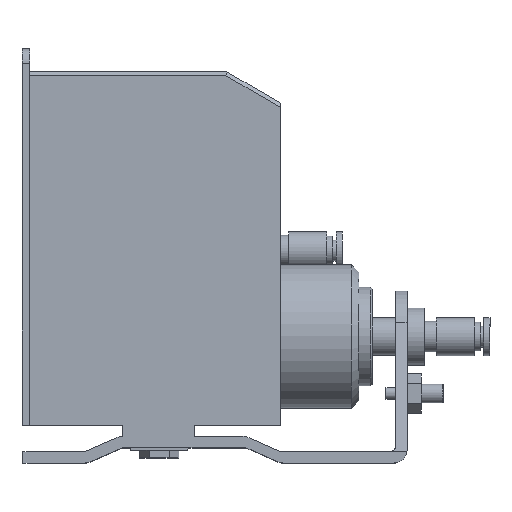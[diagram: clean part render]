
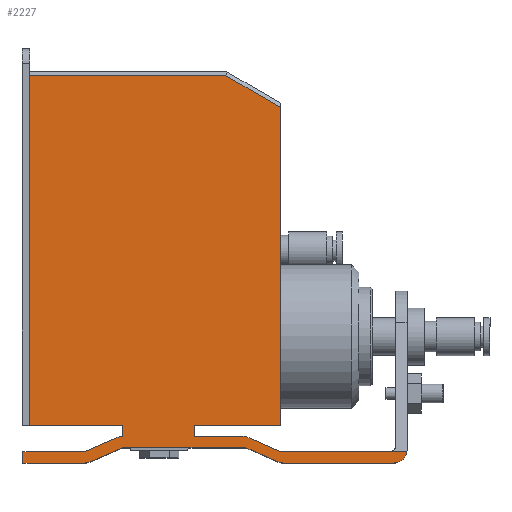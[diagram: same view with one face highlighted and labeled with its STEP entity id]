
A CAD part, top view. The second image highlights one B-rep face of the part: STEP entity #2227.
In plain terms, the highlighted planar face has unit normal (0, 0, 1).
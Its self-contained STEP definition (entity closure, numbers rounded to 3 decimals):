
#25=LINE('',#3153,#234);
#123=LINE('',#3464,#332);
#126=LINE('',#3471,#335);
#139=LINE('',#3519,#348);
#142=LINE('',#3524,#351);
#145=LINE('',#3532,#354);
#148=LINE('',#3540,#357);
#151=LINE('',#3548,#360);
#154=LINE('',#3556,#363);
#158=LINE('',#3568,#367);
#161=LINE('',#3576,#370);
#165=LINE('',#3586,#374);
#170=LINE('',#3598,#379);
#173=LINE('',#3605,#382);
#174=LINE('',#3608,#383);
#177=LINE('',#3614,#386);
#198=LINE('',#3656,#407);
#200=LINE('',#3659,#409);
#201=LINE('',#3661,#410);
#202=LINE('',#3663,#411);
#203=LINE('',#3664,#412);
#234=VECTOR('',#2523,10.);
#332=VECTOR('',#2835,10.);
#335=VECTOR('',#2842,10.);
#348=VECTOR('',#2881,10.);
#351=VECTOR('',#2886,10.);
#354=VECTOR('',#2895,10.);
#357=VECTOR('',#2904,10.);
#360=VECTOR('',#2913,10.);
#363=VECTOR('',#2922,10.);
#367=VECTOR('',#2938,10.);
#370=VECTOR('',#2947,10.);
#374=VECTOR('',#2957,10.);
#379=VECTOR('',#2968,10.);
#382=VECTOR('',#2977,10.);
#383=VECTOR('',#2980,10.);
#386=VECTOR('',#2985,10.);
#407=VECTOR('',#3018,10.);
#409=VECTOR('',#3022,10.);
#410=VECTOR('',#3025,10.);
#411=VECTOR('',#3026,10.);
#412=VECTOR('',#3027,10.);
#518=PLANE('',#2441);
#708=FACE_OUTER_BOUND('',#897,.T.);
#897=EDGE_LOOP('',(#1955,#1956,#1957,#1958,#1959,#1960,#1961,#1962,#1963,
#1964,#1965,#1966,#1967,#1968,#1969,#1970,#1971,#1972,#1973,#1974,#1975,
#1976,#1977,#1978,#1979,#1980,#1981,#1982,#1983,#1984,#1985));
#980=CIRCLE('',#2403,4.);
#981=CIRCLE('',#2406,1.);
#982=CIRCLE('',#2409,1.);
#983=CIRCLE('',#2412,4.);
#984=CIRCLE('',#2415,3.5);
#985=CIRCLE('',#2418,1.5);
#986=CIRCLE('',#2421,1.);
#987=CIRCLE('',#2424,4.);
#988=CIRCLE('',#2427,4.);
#989=CIRCLE('',#2430,1.);
#1013=VERTEX_POINT('',#3150);
#1014=VERTEX_POINT('',#3152);
#1119=VERTEX_POINT('',#3461);
#1120=VERTEX_POINT('',#3463);
#1122=VERTEX_POINT('',#3469);
#1143=VERTEX_POINT('',#3517);
#1144=VERTEX_POINT('',#3518);
#1145=VERTEX_POINT('',#3523);
#1146=VERTEX_POINT('',#3527);
#1147=VERTEX_POINT('',#3531);
#1148=VERTEX_POINT('',#3535);
#1149=VERTEX_POINT('',#3539);
#1150=VERTEX_POINT('',#3543);
#1151=VERTEX_POINT('',#3547);
#1152=VERTEX_POINT('',#3551);
#1153=VERTEX_POINT('',#3555);
#1154=VERTEX_POINT('',#3563);
#1155=VERTEX_POINT('',#3567);
#1156=VERTEX_POINT('',#3571);
#1157=VERTEX_POINT('',#3575);
#1158=VERTEX_POINT('',#3579);
#1159=VERTEX_POINT('',#3583);
#1162=VERTEX_POINT('',#3591);
#1163=VERTEX_POINT('',#3592);
#1164=VERTEX_POINT('',#3597);
#1165=VERTEX_POINT('',#3601);
#1166=VERTEX_POINT('',#3607);
#1168=VERTEX_POINT('',#3613);
#1182=VERTEX_POINT('',#3653);
#1183=VERTEX_POINT('',#3655);
#1184=VERTEX_POINT('',#3662);
#1221=EDGE_CURVE('',#1014,#1013,#25,.T.);
#1359=EDGE_CURVE('',#1120,#1119,#123,.T.);
#1363=EDGE_CURVE('',#1119,#1122,#126,.T.);
#1386=EDGE_CURVE('',#1143,#1144,#139,.T.);
#1389=EDGE_CURVE('',#1145,#1143,#142,.T.);
#1391=EDGE_CURVE('',#1146,#1145,#980,.T.);
#1393=EDGE_CURVE('',#1147,#1146,#145,.T.);
#1395=EDGE_CURVE('',#1148,#1147,#981,.T.);
#1397=EDGE_CURVE('',#1149,#1148,#148,.T.);
#1399=EDGE_CURVE('',#1150,#1149,#982,.T.);
#1401=EDGE_CURVE('',#1151,#1150,#151,.T.);
#1403=EDGE_CURVE('',#1152,#1151,#983,.T.);
#1405=EDGE_CURVE('',#1153,#1152,#154,.T.);
#1407=EDGE_CURVE('',#1120,#1153,#984,.T.);
#1410=EDGE_CURVE('',#1154,#1122,#985,.T.);
#1411=EDGE_CURVE('',#1155,#1154,#158,.T.);
#1413=EDGE_CURVE('',#1156,#1155,#986,.T.);
#1415=EDGE_CURVE('',#1157,#1156,#161,.T.);
#1417=EDGE_CURVE('',#1158,#1157,#987,.T.);
#1420=EDGE_CURVE('',#1159,#1158,#165,.T.);
#1423=EDGE_CURVE('',#1162,#1163,#988,.T.);
#1426=EDGE_CURVE('',#1164,#1162,#170,.T.);
#1428=EDGE_CURVE('',#1165,#1164,#989,.T.);
#1430=EDGE_CURVE('',#1144,#1165,#173,.T.);
#1431=EDGE_CURVE('',#1159,#1166,#174,.T.);
#1434=EDGE_CURVE('',#1168,#1163,#177,.T.);
#1455=EDGE_CURVE('',#1182,#1183,#198,.T.);
#1457=EDGE_CURVE('',#1183,#1013,#200,.T.);
#1458=EDGE_CURVE('',#1166,#1014,#201,.T.);
#1459=EDGE_CURVE('',#1182,#1184,#202,.T.);
#1460=EDGE_CURVE('',#1184,#1168,#203,.T.);
#1955=ORIENTED_EDGE('',*,*,#1363,.T.);
#1956=ORIENTED_EDGE('',*,*,#1410,.F.);
#1957=ORIENTED_EDGE('',*,*,#1411,.F.);
#1958=ORIENTED_EDGE('',*,*,#1413,.F.);
#1959=ORIENTED_EDGE('',*,*,#1415,.F.);
#1960=ORIENTED_EDGE('',*,*,#1417,.F.);
#1961=ORIENTED_EDGE('',*,*,#1420,.F.);
#1962=ORIENTED_EDGE('',*,*,#1431,.T.);
#1963=ORIENTED_EDGE('',*,*,#1458,.T.);
#1964=ORIENTED_EDGE('',*,*,#1221,.T.);
#1965=ORIENTED_EDGE('',*,*,#1457,.F.);
#1966=ORIENTED_EDGE('',*,*,#1455,.F.);
#1967=ORIENTED_EDGE('',*,*,#1459,.T.);
#1968=ORIENTED_EDGE('',*,*,#1460,.T.);
#1969=ORIENTED_EDGE('',*,*,#1434,.T.);
#1970=ORIENTED_EDGE('',*,*,#1423,.F.);
#1971=ORIENTED_EDGE('',*,*,#1426,.F.);
#1972=ORIENTED_EDGE('',*,*,#1428,.F.);
#1973=ORIENTED_EDGE('',*,*,#1430,.F.);
#1974=ORIENTED_EDGE('',*,*,#1386,.F.);
#1975=ORIENTED_EDGE('',*,*,#1389,.F.);
#1976=ORIENTED_EDGE('',*,*,#1391,.F.);
#1977=ORIENTED_EDGE('',*,*,#1393,.F.);
#1978=ORIENTED_EDGE('',*,*,#1395,.F.);
#1979=ORIENTED_EDGE('',*,*,#1397,.F.);
#1980=ORIENTED_EDGE('',*,*,#1399,.F.);
#1981=ORIENTED_EDGE('',*,*,#1401,.F.);
#1982=ORIENTED_EDGE('',*,*,#1403,.F.);
#1983=ORIENTED_EDGE('',*,*,#1405,.F.);
#1984=ORIENTED_EDGE('',*,*,#1407,.F.);
#1985=ORIENTED_EDGE('',*,*,#1359,.T.);
#2227=ADVANCED_FACE('',(#708),#518,.T.);
#2403=AXIS2_PLACEMENT_3D('',#3528,#2890,#2891);
#2406=AXIS2_PLACEMENT_3D('',#3536,#2899,#2900);
#2409=AXIS2_PLACEMENT_3D('',#3544,#2908,#2909);
#2412=AXIS2_PLACEMENT_3D('',#3552,#2917,#2918);
#2415=AXIS2_PLACEMENT_3D('',#3559,#2926,#2927);
#2418=AXIS2_PLACEMENT_3D('',#3565,#2934,#2935);
#2421=AXIS2_PLACEMENT_3D('',#3572,#2942,#2943);
#2424=AXIS2_PLACEMENT_3D('',#3580,#2951,#2952);
#2427=AXIS2_PLACEMENT_3D('',#3593,#2962,#2963);
#2430=AXIS2_PLACEMENT_3D('',#3602,#2972,#2973);
#2441=AXIS2_PLACEMENT_3D('',#3660,#3023,#3024);
#2523=DIRECTION('',(0.,1.,0.));
#2835=DIRECTION('',(-1.,0.,0.));
#2842=DIRECTION('',(0.,1.,0.));
#2881=DIRECTION('',(0.,1.,0.));
#2886=DIRECTION('',(-1.,0.,0.));
#2890=DIRECTION('center_axis',(0.,0.,-1.));
#2891=DIRECTION('ref_axis',(0.,1.,0.));
#2895=DIRECTION('',(-0.917,-0.399,0.));
#2899=DIRECTION('center_axis',(0.,0.,1.));
#2900=DIRECTION('ref_axis',(0.,1.,0.));
#2904=DIRECTION('',(-1.,0.,0.));
#2908=DIRECTION('center_axis',(0.,0.,1.));
#2909=DIRECTION('ref_axis',(0.407,0.913,0.));
#2913=DIRECTION('',(-0.913,0.407,0.));
#2917=DIRECTION('center_axis',(0.,0.,-1.));
#2918=DIRECTION('ref_axis',(0.407,0.913,0.));
#2922=DIRECTION('',(-1.,0.,0.));
#2926=DIRECTION('center_axis',(0.,0.,-1.));
#2927=DIRECTION('ref_axis',(0.,1.,0.));
#2934=DIRECTION('center_axis',(0.,0.,1.));
#2935=DIRECTION('ref_axis',(0.,-1.,0.));
#2938=DIRECTION('',(1.,0.,0.));
#2942=DIRECTION('center_axis',(0.,0.,1.));
#2943=DIRECTION('ref_axis',(-0.407,-0.913,0.));
#2947=DIRECTION('',(0.913,-0.407,0.));
#2951=DIRECTION('center_axis',(0.,0.,-1.));
#2952=DIRECTION('ref_axis',(-0.407,-0.913,0.));
#2957=DIRECTION('',(1.,0.,0.));
#2962=DIRECTION('center_axis',(0.,0.,-1.));
#2963=DIRECTION('ref_axis',(0.,-1.,0.));
#2968=DIRECTION('',(0.917,0.399,0.));
#2972=DIRECTION('center_axis',(0.,0.,1.));
#2973=DIRECTION('ref_axis',(0.,-1.,0.));
#2977=DIRECTION('',(1.,0.,0.));
#2980=DIRECTION('',(0.,1.,0.));
#2985=DIRECTION('',(0.,-1.,0.));
#3018=DIRECTION('',(1.,0.,0.));
#3022=DIRECTION('',(0.863,-0.505,0.));
#3023=DIRECTION('center_axis',(0.,0.,1.));
#3024=DIRECTION('ref_axis',(1.,0.,0.));
#3025=DIRECTION('',(1.,0.,0.));
#3026=DIRECTION('',(0.,-1.,0.));
#3027=DIRECTION('',(1.,0.,0.));
#3150=CARTESIAN_POINT('',(66.,83.608,0.));
#3152=CARTESIAN_POINT('',(66.,0.,0.));
#3153=CARTESIAN_POINT('',(66.,0.,0.));
#3461=CARTESIAN_POINT('',(95.354,-7.,0.));
#3463=CARTESIAN_POINT('',(99.318,-7.,0.));
#3464=CARTESIAN_POINT('',(66.177,-7.,0.));
#3469=CARTESIAN_POINT('',(95.354,-6.914,0.));
#3471=CARTESIAN_POINT('',(95.354,35.964,0.));
#3517=CARTESIAN_POINT('',(-1.746,-10.,0.));
#3518=CARTESIAN_POINT('',(-1.746,-7.,0.));
#3519=CARTESIAN_POINT('',(-1.746,-10.,0.));
#3523=CARTESIAN_POINT('',(14.477,-10.,0.));
#3524=CARTESIAN_POINT('',(14.477,-10.,0.));
#3527=CARTESIAN_POINT('',(16.074,-9.668,0.));
#3528=CARTESIAN_POINT('Origin',(14.477,-6.,0.));
#3531=CARTESIAN_POINT('',(24.309,-6.083,0.));
#3532=CARTESIAN_POINT('',(24.309,-6.083,0.));
#3535=CARTESIAN_POINT('',(24.708,-6.,0.));
#3536=CARTESIAN_POINT('Origin',(24.708,-7.,0.));
#3539=CARTESIAN_POINT('',(56.806,-6.,0.));
#3540=CARTESIAN_POINT('',(56.806,-6.,0.));
#3543=CARTESIAN_POINT('',(57.213,-6.087,0.));
#3544=CARTESIAN_POINT('Origin',(56.806,-7.,0.));
#3547=CARTESIAN_POINT('',(65.223,-9.654,0.));
#3548=CARTESIAN_POINT('',(65.223,-9.654,0.));
#3551=CARTESIAN_POINT('',(66.85,-10.,0.));
#3552=CARTESIAN_POINT('Origin',(66.85,-6.,0.));
#3555=CARTESIAN_POINT('',(95.854,-10.,0.));
#3556=CARTESIAN_POINT('',(95.854,-10.,0.));
#3559=CARTESIAN_POINT('Origin',(95.854,-6.5,0.));
#3563=CARTESIAN_POINT('',(94.854,-7.,0.));
#3565=CARTESIAN_POINT('Origin',(94.854,-5.5,0.));
#3567=CARTESIAN_POINT('',(66.213,-7.,0.));
#3568=CARTESIAN_POINT('',(66.213,-7.,0.));
#3571=CARTESIAN_POINT('',(65.806,-6.913,0.));
#3572=CARTESIAN_POINT('Origin',(66.213,-6.,0.));
#3575=CARTESIAN_POINT('',(57.796,-3.346,0.));
#3576=CARTESIAN_POINT('',(57.796,-3.346,0.));
#3579=CARTESIAN_POINT('',(56.169,-3.,0.));
#3580=CARTESIAN_POINT('Origin',(56.169,-7.,0.));
#3583=CARTESIAN_POINT('',(43.3,-3.,0.));
#3586=CARTESIAN_POINT('',(24.5,-3.,0.));
#3591=CARTESIAN_POINT('',(22.904,-3.332,0.));
#3592=CARTESIAN_POINT('',(24.5,-3.,0.));
#3593=CARTESIAN_POINT('Origin',(24.5,-7.,0.));
#3597=CARTESIAN_POINT('',(14.668,-6.917,0.));
#3598=CARTESIAN_POINT('',(14.668,-6.917,0.));
#3601=CARTESIAN_POINT('',(14.269,-7.,0.));
#3602=CARTESIAN_POINT('Origin',(14.269,-6.,0.));
#3605=CARTESIAN_POINT('',(-1.746,-7.,0.));
#3607=CARTESIAN_POINT('',(43.3,0.,0.));
#3608=CARTESIAN_POINT('',(43.3,-3.,0.));
#3613=CARTESIAN_POINT('',(24.5,0.,0.));
#3614=CARTESIAN_POINT('',(24.5,0.,0.));
#3653=CARTESIAN_POINT('',(0.,92.,0.));
#3655=CARTESIAN_POINT('',(51.643,92.,0.));
#3656=CARTESIAN_POINT('',(16.5,92.,0.));
#3659=CARTESIAN_POINT('',(61.533,86.219,0.));
#3660=CARTESIAN_POINT('Origin',(33.,46.5,0.));
#3661=CARTESIAN_POINT('',(0.,0.,0.));
#3662=CARTESIAN_POINT('',(0.,0.,0.));
#3663=CARTESIAN_POINT('',(0.,93.,0.));
#3664=CARTESIAN_POINT('',(0.,0.,0.));
